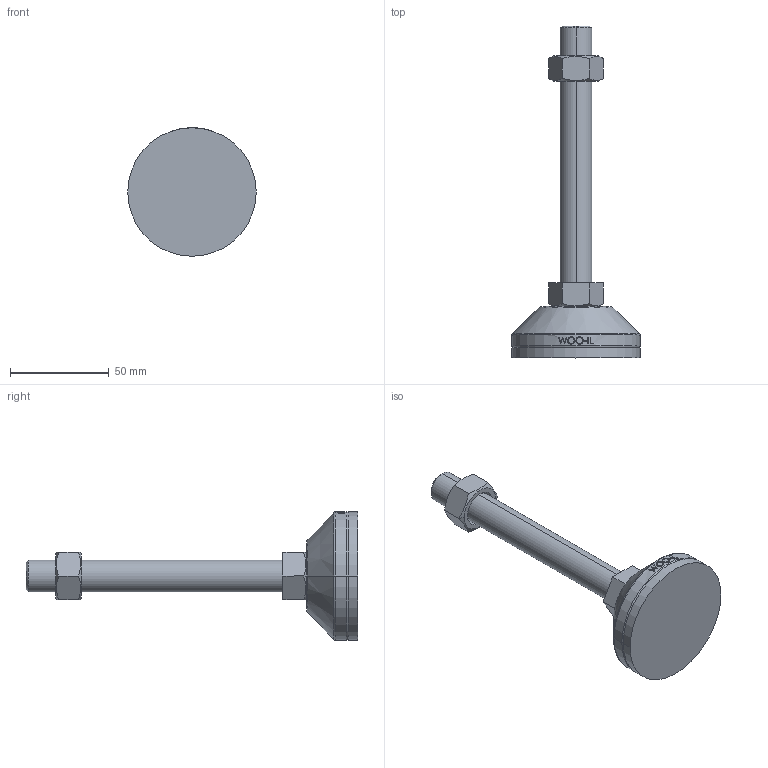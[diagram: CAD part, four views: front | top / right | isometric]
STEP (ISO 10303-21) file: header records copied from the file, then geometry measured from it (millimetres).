
FILE_DESCRIPTION (( 'STEP AP214' ), '1' );
FILE_NAME ('NHNR65-M16-130.step', '2021-01-25T06:17:23', ( '' ), ( '' ), 'SwSTEP 2.0', 'SolidWorks 2019', '' );
FILE_SCHEMA (( 'AUTOMOTIVE_DESIGN' ));
Length unit declared in the file: millimetre
Products named in the file (2): NHNR65-M16-130
Bounding box: 65 x 168 x 65 mm (x, y, z)
Volume: 103696.9 mm3; surface area: 27461.1 mm2
Topology: 4 solids, 4 shells, 105 faces, 239 edges, 152 vertices
Faces by surface type: plane 49, cylinder 18, bspline 16, cone 14, torus 8
Entity records: 4363 total; most frequent: CARTESIAN_POINT 2046, ORIENTED_EDGE 478, DIRECTION 429, EDGE_CURVE 239, AXIS2_PLACEMENT_3D 165, VERTEX_POINT 152, EDGE_LOOP 117, FACE_OUTER_BOUND 105
